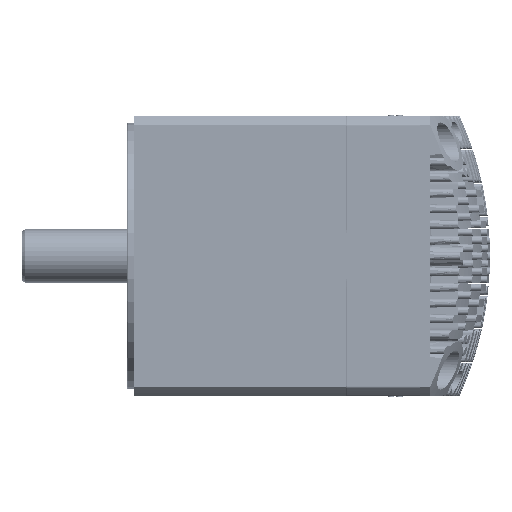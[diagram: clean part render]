
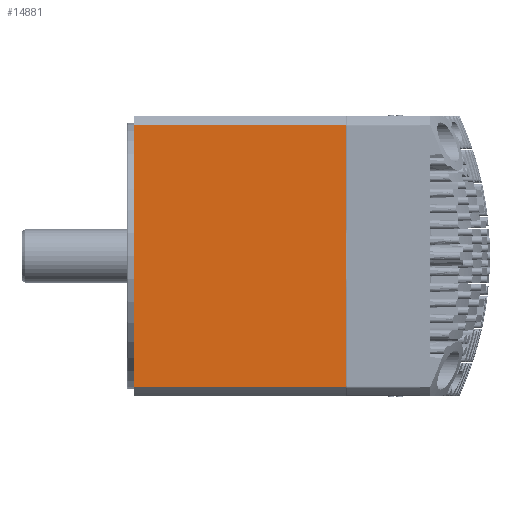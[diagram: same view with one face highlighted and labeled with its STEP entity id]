
A CAD part, front view. The second image highlights one B-rep face of the part: STEP entity #14881.
In plain terms, the highlighted planar face has unit normal (0, -1, 0).
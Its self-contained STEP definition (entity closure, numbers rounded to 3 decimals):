
#4258=DIRECTION('',(0.,0.,-1.));
#4259=VECTOR('',#4258,93.643);
#4260=CARTESIAN_POINT('',(3.5,-50.,46.821));
#4261=LINE('',#4260,#4259);
#4265=DIRECTION('',(-1.,0.,0.));
#4266=VECTOR('',#4265,75.5);
#4267=CARTESIAN_POINT('',(79.,-50.,46.821));
#4268=LINE('',#4267,#4266);
#4272=DIRECTION('',(0.,0.,-1.));
#4273=VECTOR('',#4272,93.643);
#4274=CARTESIAN_POINT('',(79.,-50.,46.821));
#4275=LINE('',#4274,#4273);
#4279=DIRECTION('',(-1.,0.,0.));
#4280=VECTOR('',#4279,75.5);
#4281=CARTESIAN_POINT('',(79.,-50.,-46.821));
#4282=LINE('',#4281,#4280);
#10374=CARTESIAN_POINT('',(79.,-50.,46.821));
#10375=CARTESIAN_POINT('',(79.,-50.,-46.821));
#10376=VERTEX_POINT('',#10374);
#10377=VERTEX_POINT('',#10375);
#10390=CARTESIAN_POINT('',(3.5,-50.,46.821));
#10391=CARTESIAN_POINT('',(3.5,-50.,-46.821));
#10392=VERTEX_POINT('',#10390);
#10393=VERTEX_POINT('',#10391);
#14870=CARTESIAN_POINT('',(0.,-50.,50.));
#14871=DIRECTION('',(0.,-1.,0.));
#14872=DIRECTION('',(0.,0.,-1.));
#14873=AXIS2_PLACEMENT_3D('',#14870,#14871,#14872);
#14874=PLANE('',#14873);
#14875=ORIENTED_EDGE('',*,*,#11625,.F.);
#14876=ORIENTED_EDGE('',*,*,#14865,.F.);
#14877=ORIENTED_EDGE('',*,*,#14769,.T.);
#14878=ORIENTED_EDGE('',*,*,#14850,.T.);
#14879=EDGE_LOOP('',(#14875,#14876,#14877,#14878));
#14880=FACE_OUTER_BOUND('',#14879,.F.);
#11625=EDGE_CURVE('',#10392,#10393,#4261,.T.);
#14769=EDGE_CURVE('',#10376,#10377,#4275,.T.);
#14850=EDGE_CURVE('',#10377,#10393,#4282,.T.);
#14865=EDGE_CURVE('',#10376,#10392,#4268,.T.);
#14881=ADVANCED_FACE('',(#14880),#14874,.T.);
